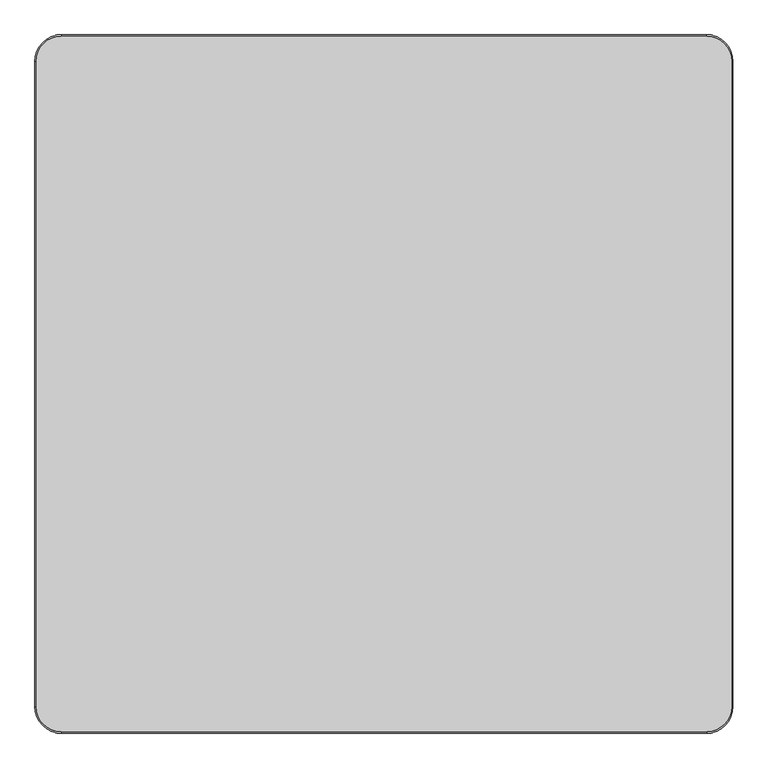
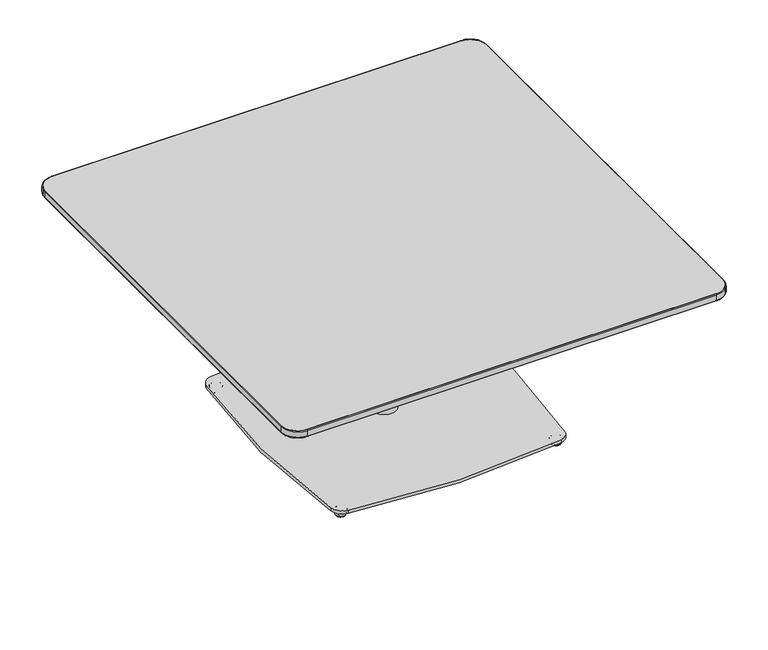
"""IFC4 building model written with IfcOpenShell, lengths in millimetres: furniture geometry, Coalesse_AM_Table_Occasional_Montara650Table_Square : 42D x 42W."""

from ifc_helpers import new_model, si_unit, point, frame, frame_2d, origin, place, context, project, spatial, polyline, circle_curve, ellipse_curve, trimmed, segment, composite_curve, outline, extrude, source, transform, mapped, element, save
from ifc_brep_helpers import plane_surface, cylinder_surface, revolved_surface, spline_surface, advanced_brep


def furniture_d6c9ae74(model_context):
    return source(origin(), model_context, "Body", "SolidModel", [
        advanced_brep(
        [(252.2843813, 244.9990703, 0.0), (266.9696661, 259.6843552, 0.0), (259.6270237, 252.3417127, 0.0), (251.7378791, 244.4525682, 0.5718943), (267.5161683, 260.2308573, 0.5718943), (249.43878, 242.1534691, 11.2068005), (269.8152674, 262.5299564, 11.2068005), (249.8538008, 242.5684899, 11.9999882), (269.4002466, 262.1149356, 11.9999882), (259.6270237, 252.3417127, 11.9999882)],
        [
            (0, 1, circle_curve(frame((259.6270237, 252.3417127, 0.0), z_axis=(0.0, 0.0, -1.0), x_axis=(0.7071067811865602, 0.7071067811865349, 0.0)), 10.3840645)),
            (1, 2),
            (2, 0),
            (1, 0, circle_curve(frame((259.6270237, 252.3417127, 0.0), z_axis=(0.0, 0.0, -1.0), x_axis=(0.7071067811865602, 0.7071067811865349, 0.0)), 10.3840645)),
            (3, 4, circle_curve(frame((259.6270237, 252.3417127, 0.5718943), z_axis=(0.0, 0.0, -1.0), x_axis=(0.7071067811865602, 0.7071067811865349, 0.0)), 11.1569353)),
            (4, 1, circle_curve(frame((266.9696661, 259.6843552, 0.8081846), z_axis=(-0.7071067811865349, 0.7071067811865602, 0.0), x_axis=(0.7071067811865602, 0.7071067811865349, 0.0)), 0.8081846)),
            (0, 3, circle_curve(frame((252.2843813, 244.9990703, 0.8081846), z_axis=(-0.7071067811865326, 0.7071067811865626, 0.0), x_axis=(-0.7071067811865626, -0.7071067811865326, 0.0)), 0.8081846)),
            (4, 3, circle_curve(frame((259.6270237, 252.3417127, 0.5718943), z_axis=(0.0, 0.0, -1.0), x_axis=(0.7071067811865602, 0.7071067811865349, 0.0)), 11.1569353)),
            (5, 6, circle_curve(frame((259.6270237, 252.3417127, 11.2068005), z_axis=(0.0, 0.0, -1.0), x_axis=(0.7071067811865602, 0.7071067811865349, 0.0)), 14.4083524)),
            (6, 4),
            (3, 5),
            (6, 5, circle_curve(frame((259.6270237, 252.3417127, 11.2068005), z_axis=(0.0, 0.0, -1.0), x_axis=(0.7071067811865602, 0.7071067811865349, 0.0)), 14.4083524)),
            (7, 8, circle_curve(frame((259.6270237, 252.3417127, 11.9999882), z_axis=(0.0, 0.0, -1.0), x_axis=(0.7071067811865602, 0.7071067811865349, 0.0)), 13.8214243)),
            (8, 6, circle_curve(frame((269.4002466, 262.1149356, 11.3862424), z_axis=(-0.7071067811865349, 0.7071067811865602, 0.0), x_axis=(0.7071067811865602, 0.7071067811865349, 0.0)), 0.6137458)),
            (5, 7, circle_curve(frame((249.8538008, 242.5684899, 11.3862424), z_axis=(-0.7071067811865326, 0.7071067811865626, 0.0), x_axis=(-0.7071067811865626, -0.7071067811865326, 0.0)), 0.6137458)),
            (8, 7, circle_curve(frame((259.6270237, 252.3417127, 11.9999882), z_axis=(0.0, 0.0, -1.0), x_axis=(0.7071067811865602, 0.7071067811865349, 0.0)), 13.8214243)),
            (9, 8),
            (7, 9),
        ],
        [
            plane_surface(frame((259.6270237, 252.3417127, 0.0), z_axis=(0.0, 0.0, -1.0000000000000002), x_axis=(0.7071067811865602, 0.7071067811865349, 0.0))),
            revolved_surface(trimmed(ellipse_curve(frame((266.9696661, 259.6843552, 0.8081846), z_axis=(0.7071067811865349, -0.7071067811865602, 0.0), x_axis=(0.7071067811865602, 0.7071067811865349, 0.0)), 0.8081846, 0.8081846), [point((266.9696661, 259.6843552, 0.0))], [point((267.5161683, 260.2308573, 0.5718943))], True, "CARTESIAN"), (259.6270237, 252.3417127, 12.2086845), (0.0, 0.0, 1.0)),
            revolved_surface(polyline([(267.5161683, 260.2308573, 0.5718943), (269.8152674, 262.5299564, 11.2068005)]), (259.6270237, 252.3417127, 12.2086845), (0.0, 0.0, 1.0)),
            revolved_surface(trimmed(ellipse_curve(frame((269.4002466, 262.1149356, 11.3862424), z_axis=(0.7071067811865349, -0.7071067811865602, 0.0), x_axis=(0.7071067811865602, 0.7071067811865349, 0.0)), 0.6137458, 0.6137458), [point((269.8152674, 262.5299564, 11.2068005))], [point((269.4002466, 262.1149356, 11.9999882))], True, "CARTESIAN"), (259.6270237, 252.3417127, 12.2086845), (0.0, 0.0, 1.0)),
            plane_surface(frame((259.6270237, 252.3417127, 11.9999882), z_axis=(0.0, 0.0, 1.0000000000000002), x_axis=(0.7071067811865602, 0.7071067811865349, 0.0))),
        ],
        [
            (0, [[1, 2, 3]]),
            (0, [[4, -3, -2]]),
            (1, [[5, 6, -1, 7]]),
            (1, [[8, -7, -4, -6]]),
            (2, [[9, 10, -5, 11]]),
            (2, [[12, -11, -8, -10]]),
            (3, [[13, 14, -9, 15]]),
            (3, [[16, -15, -12, -14]]),
            (4, [[17, -13, 18]]),
            (4, [[-18, -16, -17]]),
        ],
    ),
        advanced_brep(
        [(259.6270237, -268.2167127, 0.0), (266.9696661, -275.5593552, 0.0), (252.2843813, -260.8740703, 0.0), (267.5161683, -276.1058573, 0.5718943), (251.7378791, -260.3275682, 0.5718943), (269.8152674, -278.4049564, 11.2068005), (249.43878, -258.0284691, 11.2068005), (269.4002466, -277.9899356, 11.9999882), (249.8538008, -258.4434899, 11.9999882), (259.6270237, -268.2167127, 11.9999882)],
        [
            (0, 1),
            (1, 2, circle_curve(frame((259.6270237, -268.2167127, 0.0), z_axis=(0.0, 0.0, -1.0), x_axis=(0.7071067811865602, -0.7071067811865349, 0.0)), 10.3840645)),
            (2, 0),
            (2, 1, circle_curve(frame((259.6270237, -268.2167127, 0.0), z_axis=(0.0, 0.0, -1.0), x_axis=(0.7071067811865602, -0.7071067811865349, 0.0)), 10.3840645)),
            (1, 3, circle_curve(frame((266.9696661, -275.5593552, 0.8081846), z_axis=(-0.7071067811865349, -0.7071067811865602, 0.0), x_axis=(0.7071067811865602, -0.7071067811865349, 0.0)), 0.8081846)),
            (3, 4, circle_curve(frame((259.6270237, -268.2167127, 0.5718943), z_axis=(0.0, 0.0, -1.0), x_axis=(0.7071067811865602, -0.7071067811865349, 0.0)), 11.1569353)),
            (4, 2, circle_curve(frame((252.2843813, -260.8740703, 0.8081846), z_axis=(-0.7071067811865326, -0.7071067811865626, 0.0), x_axis=(-0.7071067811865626, 0.7071067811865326, 0.0)), 0.8081846)),
            (4, 3, circle_curve(frame((259.6270237, -268.2167127, 0.5718943), z_axis=(0.0, 0.0, -1.0), x_axis=(0.7071067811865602, -0.7071067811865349, 0.0)), 11.1569353)),
            (3, 5),
            (5, 6, circle_curve(frame((259.6270237, -268.2167127, 11.2068005), z_axis=(0.0, 0.0, -1.0), x_axis=(0.7071067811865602, -0.7071067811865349, 0.0)), 14.4083524)),
            (6, 4),
            (6, 5, circle_curve(frame((259.6270237, -268.2167127, 11.2068005), z_axis=(0.0, 0.0, -1.0), x_axis=(0.7071067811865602, -0.7071067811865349, 0.0)), 14.4083524)),
            (5, 7, circle_curve(frame((269.4002466, -277.9899356, 11.3862424), z_axis=(-0.7071067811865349, -0.7071067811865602, 0.0), x_axis=(0.7071067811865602, -0.7071067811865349, 0.0)), 0.6137458)),
            (7, 8, circle_curve(frame((259.6270237, -268.2167127, 11.9999882), z_axis=(0.0, 0.0, -1.0), x_axis=(0.7071067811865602, -0.7071067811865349, 0.0)), 13.8214243)),
            (8, 6, circle_curve(frame((249.8538008, -258.4434899, 11.3862424), z_axis=(-0.7071067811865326, -0.7071067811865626, 0.0), x_axis=(-0.7071067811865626, 0.7071067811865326, 0.0)), 0.6137458)),
            (8, 7, circle_curve(frame((259.6270237, -268.2167127, 11.9999882), z_axis=(0.0, 0.0, -1.0), x_axis=(0.7071067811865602, -0.7071067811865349, 0.0)), 13.8214243)),
            (7, 9),
            (9, 8),
        ],
        [
            plane_surface(frame((259.6270237, -268.2167127, 0.0), z_axis=(0.0, 0.0, -1.0000000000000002), x_axis=(0.7071067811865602, -0.7071067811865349, 0.0))),
            revolved_surface(trimmed(ellipse_curve(frame((266.9696661, -275.5593552, 0.8081846), z_axis=(0.7071067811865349, 0.7071067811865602, 0.0), x_axis=(0.7071067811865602, -0.7071067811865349, 0.0)), 0.8081846, 0.8081846), [point((267.5161683, -276.1058573, 0.5718943))], [point((266.9696661, -275.5593552, 0.0))], True, "CARTESIAN"), (259.6270237, -268.2167127, 12.2086845), (0.0, 0.0, -1.0)),
            revolved_surface(polyline([(269.8152674, -278.4049564, 11.2068005), (267.5161683, -276.1058573, 0.5718943)]), (259.6270237, -268.2167127, 12.2086845), (0.0, 0.0, -1.0)),
            revolved_surface(trimmed(ellipse_curve(frame((269.4002466, -277.9899356, 11.3862424), z_axis=(0.7071067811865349, 0.7071067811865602, 0.0), x_axis=(0.7071067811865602, -0.7071067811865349, 0.0)), 0.6137458, 0.6137458), [point((269.4002466, -277.9899356, 11.9999882))], [point((269.8152674, -278.4049564, 11.2068005))], True, "CARTESIAN"), (259.6270237, -268.2167127, 12.2086845), (0.0, 0.0, -1.0)),
            plane_surface(frame((259.6270237, -268.2167127, 11.9999882), z_axis=(0.0, 0.0, 1.0000000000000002), x_axis=(0.7071067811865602, -0.7071067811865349, 0.0))),
        ],
        [
            (0, [[1, 2, 3]]),
            (0, [[-3, 4, -1]]),
            (1, [[-2, 5, 6, 7]]),
            (1, [[-4, -7, 8, -5]]),
            (2, [[-6, 9, 10, 11]]),
            (2, [[-8, -11, 12, -9]]),
            (3, [[-10, 13, 14, 15]]),
            (3, [[-12, -15, 16, -13]]),
            (4, [[-14, 17, 18]]),
            (4, [[-16, -18, -17]]),
        ],
    ),
        extrude(outline(composite_curve([segment(trimmed(circle_curve(frame_2d((252.4620101, 244.7741595)), 31.75), [point((257.2212429, 276.1654354))], [point((283.8374336, 249.6368029))], False, "CARTESIAN"), True, "CONTINUOUS"), segment(trimmed(circle_curve(frame_2d((-1338.8141764, -1.8458925)), 1642.0236885), [point((283.8374336, 249.6368029))], [point((281.5966066, -267.3843791))], False, "CARTESIAN"), True, "CONTINUOUS"), segment(trimmed(circle_curve(frame_2d((256.5309305, -263.2768394)), 25.4), [point((281.5966066, -267.3843791))], [point((260.3854879, -288.3826631))], False, "CARTESIAN"), True, "CONTINUOUS"), segment(trimmed(circle_curve(frame_2d((1.8210899, 1395.720493)), 1703.8365498), [point((260.3854879, -288.3826631))], [point((-253.486505, -288.8794656))], False, "CARTESIAN"), True, "CONTINUOUS"), segment(trimmed(circle_curve(frame_2d((-248.7289969, -257.4879282)), 31.75), [point((-253.486505, -288.8794656))], [point((-280.1193859, -262.2530073))], False, "CARTESIAN"), True, "CONTINUOUS"), segment(trimmed(circle_curve(frame_2d((1447.4963883, 5.89e-05)), 1747.4074894), [point((-280.1193859, -262.2530073))], [point((-281.3896101, 253.7442979))], False, "CARTESIAN"), True, "CONTINUOUS"), segment(trimmed(circle_curve(frame_2d((-256.2588351, 250.0559175)), 25.4), [point((-281.3896101, 253.7442979))], [point((-260.1643924, 275.1538581))], False, "CARTESIAN"), True, "CONTINUOUS"), segment(trimmed(circle_curve(frame_2d((1.8210899, -1408.420493)), 1703.8365498), [point((-260.1643924, 275.1538581))], [point((257.2212429, 276.1654354))], False, "CARTESIAN"), True, "CONTINUOUS")], self_intersect=False)), frame((0.0, 0.0, 11.9999882), z_axis=(0.0, 0.0, 1.0), x_axis=(1.0, 0.0, 0.0)), (0.0, 0.0, 1.0), 8.0000083),
        advanced_brep(
        [(-259.6270237, 252.3417127, 0.0), (-266.9696661, 259.6843552, 0.0), (-252.2843813, 244.9990703, 0.0), (-267.5161683, 260.2308573, 0.5718943), (-251.7378791, 244.4525682, 0.5718943), (-269.8152674, 262.5299564, 11.2068005), (-249.43878, 242.1534691, 11.2068005), (-269.4002466, 262.1149356, 11.9999882), (-249.8538008, 242.5684899, 11.9999882), (-259.6270237, 252.3417127, 11.9999882)],
        [
            (0, 1),
            (1, 2, circle_curve(frame((-259.6270237, 252.3417127, 0.0), z_axis=(0.0, 0.0, -1.0), x_axis=(-0.7071067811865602, 0.7071067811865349, 0.0)), 10.3840645)),
            (2, 0),
            (2, 1, circle_curve(frame((-259.6270237, 252.3417127, 0.0), z_axis=(0.0, 0.0, -1.0), x_axis=(-0.7071067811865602, 0.7071067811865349, 0.0)), 10.3840645)),
            (1, 3, circle_curve(frame((-266.9696661, 259.6843552, 0.8081846), z_axis=(0.7071067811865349, 0.7071067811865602, 0.0), x_axis=(-0.7071067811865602, 0.7071067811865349, 0.0)), 0.8081846)),
            (3, 4, circle_curve(frame((-259.6270237, 252.3417127, 0.5718943), z_axis=(0.0, 0.0, -1.0), x_axis=(-0.7071067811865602, 0.7071067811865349, 0.0)), 11.1569353)),
            (4, 2, circle_curve(frame((-252.2843813, 244.9990703, 0.8081846), z_axis=(0.7071067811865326, 0.7071067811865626, 0.0), x_axis=(0.7071067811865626, -0.7071067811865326, 0.0)), 0.8081846)),
            (4, 3, circle_curve(frame((-259.6270237, 252.3417127, 0.5718943), z_axis=(0.0, 0.0, -1.0), x_axis=(-0.7071067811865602, 0.7071067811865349, 0.0)), 11.1569353)),
            (3, 5),
            (5, 6, circle_curve(frame((-259.6270237, 252.3417127, 11.2068005), z_axis=(0.0, 0.0, -1.0), x_axis=(-0.7071067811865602, 0.7071067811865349, 0.0)), 14.4083524)),
            (6, 4),
            (6, 5, circle_curve(frame((-259.6270237, 252.3417127, 11.2068005), z_axis=(0.0, 0.0, -1.0), x_axis=(-0.7071067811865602, 0.7071067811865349, 0.0)), 14.4083524)),
            (5, 7, circle_curve(frame((-269.4002466, 262.1149356, 11.3862424), z_axis=(0.7071067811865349, 0.7071067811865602, 0.0), x_axis=(-0.7071067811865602, 0.7071067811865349, 0.0)), 0.6137458)),
            (7, 8, circle_curve(frame((-259.6270237, 252.3417127, 11.9999882), z_axis=(0.0, 0.0, -1.0), x_axis=(-0.7071067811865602, 0.7071067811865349, 0.0)), 13.8214243)),
            (8, 6, circle_curve(frame((-249.8538008, 242.5684899, 11.3862424), z_axis=(0.7071067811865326, 0.7071067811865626, 0.0), x_axis=(0.7071067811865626, -0.7071067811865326, 0.0)), 0.6137458)),
            (8, 7, circle_curve(frame((-259.6270237, 252.3417127, 11.9999882), z_axis=(0.0, 0.0, -1.0), x_axis=(-0.7071067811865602, 0.7071067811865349, 0.0)), 13.8214243)),
            (7, 9),
            (9, 8),
        ],
        [
            plane_surface(frame((-259.6270237, 252.3417127, 0.0), z_axis=(0.0, 0.0, -1.0000000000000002), x_axis=(-0.7071067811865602, 0.7071067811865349, 0.0))),
            revolved_surface(trimmed(ellipse_curve(frame((-266.9696661, 259.6843552, 0.8081846), z_axis=(-0.7071067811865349, -0.7071067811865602, 0.0), x_axis=(-0.7071067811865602, 0.7071067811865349, 0.0)), 0.8081846, 0.8081846), [point((-267.5161683, 260.2308573, 0.5718943))], [point((-266.9696661, 259.6843552, 0.0))], True, "CARTESIAN"), (-259.6270237, 252.3417127, 12.2086845), (0.0, 0.0, -1.0)),
            revolved_surface(polyline([(-269.8152674, 262.5299564, 11.2068005), (-267.5161683, 260.2308573, 0.5718943)]), (-259.6270237, 252.3417127, 12.2086845), (0.0, 0.0, -1.0)),
            revolved_surface(trimmed(ellipse_curve(frame((-269.4002466, 262.1149356, 11.3862424), z_axis=(-0.7071067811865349, -0.7071067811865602, 0.0), x_axis=(-0.7071067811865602, 0.7071067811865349, 0.0)), 0.6137458, 0.6137458), [point((-269.4002466, 262.1149356, 11.9999882))], [point((-269.8152674, 262.5299564, 11.2068005))], True, "CARTESIAN"), (-259.6270237, 252.3417127, 12.2086845), (0.0, 0.0, -1.0)),
            plane_surface(frame((-259.6270237, 252.3417127, 11.9999882), z_axis=(0.0, 0.0, 1.0000000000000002), x_axis=(-0.7071067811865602, 0.7071067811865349, 0.0))),
        ],
        [
            (0, [[1, 2, 3]]),
            (0, [[-3, 4, -1]]),
            (1, [[-2, 5, 6, 7]]),
            (1, [[-4, -7, 8, -5]]),
            (2, [[-6, 9, 10, 11]]),
            (2, [[-8, -11, 12, -9]]),
            (3, [[-10, 13, 14, 15]]),
            (3, [[-12, -15, 16, -13]]),
            (4, [[-14, 17, 18]]),
            (4, [[-16, -18, -17]]),
        ],
    ),
        advanced_brep(
        [(-252.2843813, -260.8740703, 0.0), (-266.9696661, -275.5593552, 0.0), (-259.6270237, -268.2167127, 0.0), (-251.7378791, -260.3275682, 0.5718943), (-267.5161683, -276.1058573, 0.5718943), (-249.43878, -258.0284691, 11.2068005), (-269.8152674, -278.4049564, 11.2068005), (-249.8538008, -258.4434899, 11.9999882), (-269.4002466, -277.9899356, 11.9999882), (-259.6270237, -268.2167127, 11.9999882)],
        [
            (0, 1, circle_curve(frame((-259.6270237, -268.2167127, 0.0), z_axis=(0.0, 0.0, -1.0), x_axis=(-0.7071067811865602, -0.7071067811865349, 0.0)), 10.3840645)),
            (1, 2),
            (2, 0),
            (1, 0, circle_curve(frame((-259.6270237, -268.2167127, 0.0), z_axis=(0.0, 0.0, -1.0), x_axis=(-0.7071067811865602, -0.7071067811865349, 0.0)), 10.3840645)),
            (3, 4, circle_curve(frame((-259.6270237, -268.2167127, 0.5718943), z_axis=(0.0, 0.0, -1.0), x_axis=(-0.7071067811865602, -0.7071067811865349, 0.0)), 11.1569353)),
            (4, 1, circle_curve(frame((-266.9696661, -275.5593552, 0.8081846), z_axis=(0.7071067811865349, -0.7071067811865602, 0.0), x_axis=(-0.7071067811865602, -0.7071067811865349, 0.0)), 0.8081846)),
            (0, 3, circle_curve(frame((-252.2843813, -260.8740703, 0.8081846), z_axis=(0.7071067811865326, -0.7071067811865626, 0.0), x_axis=(0.7071067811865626, 0.7071067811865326, 0.0)), 0.8081846)),
            (4, 3, circle_curve(frame((-259.6270237, -268.2167127, 0.5718943), z_axis=(0.0, 0.0, -1.0), x_axis=(-0.7071067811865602, -0.7071067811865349, 0.0)), 11.1569353)),
            (5, 6, circle_curve(frame((-259.6270237, -268.2167127, 11.2068005), z_axis=(0.0, 0.0, -1.0), x_axis=(-0.7071067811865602, -0.7071067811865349, 0.0)), 14.4083524)),
            (6, 4),
            (3, 5),
            (6, 5, circle_curve(frame((-259.6270237, -268.2167127, 11.2068005), z_axis=(0.0, 0.0, -1.0), x_axis=(-0.7071067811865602, -0.7071067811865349, 0.0)), 14.4083524)),
            (7, 8, circle_curve(frame((-259.6270237, -268.2167127, 11.9999882), z_axis=(0.0, 0.0, -1.0), x_axis=(-0.7071067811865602, -0.7071067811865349, 0.0)), 13.8214243)),
            (8, 6, circle_curve(frame((-269.4002466, -277.9899356, 11.3862424), z_axis=(0.7071067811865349, -0.7071067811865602, 0.0), x_axis=(-0.7071067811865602, -0.7071067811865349, 0.0)), 0.6137458)),
            (5, 7, circle_curve(frame((-249.8538008, -258.4434899, 11.3862424), z_axis=(0.7071067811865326, -0.7071067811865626, 0.0), x_axis=(0.7071067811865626, 0.7071067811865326, 0.0)), 0.6137458)),
            (8, 7, circle_curve(frame((-259.6270237, -268.2167127, 11.9999882), z_axis=(0.0, 0.0, -1.0), x_axis=(-0.7071067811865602, -0.7071067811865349, 0.0)), 13.8214243)),
            (9, 8),
            (7, 9),
        ],
        [
            plane_surface(frame((-259.6270237, -268.2167127, 0.0), z_axis=(0.0, 0.0, -1.0000000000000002), x_axis=(-0.7071067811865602, -0.7071067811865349, 0.0))),
            revolved_surface(trimmed(ellipse_curve(frame((-266.9696661, -275.5593552, 0.8081846), z_axis=(-0.7071067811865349, 0.7071067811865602, 0.0), x_axis=(-0.7071067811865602, -0.7071067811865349, 0.0)), 0.8081846, 0.8081846), [point((-266.9696661, -275.5593552, 0.0))], [point((-267.5161683, -276.1058573, 0.5718943))], True, "CARTESIAN"), (-259.6270237, -268.2167127, 12.2086845), (0.0, 0.0, 1.0)),
            revolved_surface(polyline([(-267.5161683, -276.1058573, 0.5718943), (-269.8152674, -278.4049564, 11.2068005)]), (-259.6270237, -268.2167127, 12.2086845), (0.0, 0.0, 1.0)),
            revolved_surface(trimmed(ellipse_curve(frame((-269.4002466, -277.9899356, 11.3862424), z_axis=(-0.7071067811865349, 0.7071067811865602, 0.0), x_axis=(-0.7071067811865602, -0.7071067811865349, 0.0)), 0.6137458, 0.6137458), [point((-269.8152674, -278.4049564, 11.2068005))], [point((-269.4002466, -277.9899356, 11.9999882))], True, "CARTESIAN"), (-259.6270237, -268.2167127, 12.2086845), (0.0, 0.0, 1.0)),
            plane_surface(frame((-259.6270237, -268.2167127, 11.9999882), z_axis=(0.0, 0.0, 1.0000000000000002), x_axis=(-0.7071067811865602, -0.7071067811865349, 0.0))),
        ],
        [
            (0, [[1, 2, 3]]),
            (0, [[4, -3, -2]]),
            (1, [[5, 6, -1, 7]]),
            (1, [[8, -7, -4, -6]]),
            (2, [[9, 10, -5, 11]]),
            (2, [[12, -11, -8, -10]]),
            (3, [[13, 14, -9, 15]]),
            (3, [[16, -15, -12, -14]]),
            (4, [[17, -13, 18]]),
            (4, [[-18, -16, -17]]),
        ],
    ),
        advanced_brep(
        [(-259.4526224, 252.1653521, 0.0), (-266.7952648, 259.5079945, 0.0), (-252.1099799, 244.8227097, 0.0), (-267.3417669, 260.0544967, 0.5718943), (-251.5634778, 244.2762075, 0.5718943), (-269.640866, 262.3535958, 11.2068005), (-249.2643787, 241.9771084, 11.2068005), (-269.2258452, 261.938575, 11.9999882), (-249.6793995, 242.3921292, 11.9999882), (-259.4526224, 252.1653521, 11.9999882)],
        [
            (0, 1),
            (1, 2, circle_curve(frame((-259.4526224, 252.1653521, 0.0), z_axis=(0.0, 0.0, -1.0), x_axis=(-0.7071067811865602, 0.7071067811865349, 0.0)), 10.3840645)),
            (2, 0),
            (2, 1, circle_curve(frame((-259.4526224, 252.1653521, 0.0), z_axis=(0.0, 0.0, -1.0), x_axis=(-0.7071067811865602, 0.7071067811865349, 0.0)), 10.3840645)),
            (1, 3, circle_curve(frame((-266.7952648, 259.5079945, 0.8081846), z_axis=(0.7071067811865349, 0.7071067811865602, 0.0), x_axis=(-0.7071067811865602, 0.7071067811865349, 0.0)), 0.8081846)),
            (3, 4, circle_curve(frame((-259.4526224, 252.1653521, 0.5718943), z_axis=(0.0, 0.0, -1.0), x_axis=(-0.7071067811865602, 0.7071067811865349, 0.0)), 11.1569353)),
            (4, 2, circle_curve(frame((-252.1099799, 244.8227097, 0.8081846), z_axis=(0.7071067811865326, 0.7071067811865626, 0.0), x_axis=(0.7071067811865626, -0.7071067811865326, 0.0)), 0.8081846)),
            (4, 3, circle_curve(frame((-259.4526224, 252.1653521, 0.5718943), z_axis=(0.0, 0.0, -1.0), x_axis=(-0.7071067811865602, 0.7071067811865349, 0.0)), 11.1569353)),
            (3, 5),
            (5, 6, circle_curve(frame((-259.4526224, 252.1653521, 11.2068005), z_axis=(0.0, 0.0, -1.0), x_axis=(-0.7071067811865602, 0.7071067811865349, 0.0)), 14.4083524)),
            (6, 4),
            (6, 5, circle_curve(frame((-259.4526224, 252.1653521, 11.2068005), z_axis=(0.0, 0.0, -1.0), x_axis=(-0.7071067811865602, 0.7071067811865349, 0.0)), 14.4083524)),
            (5, 7, circle_curve(frame((-269.2258452, 261.938575, 11.3862424), z_axis=(0.7071067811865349, 0.7071067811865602, 0.0), x_axis=(-0.7071067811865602, 0.7071067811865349, 0.0)), 0.6137458)),
            (7, 8, circle_curve(frame((-259.4526224, 252.1653521, 11.9999882), z_axis=(0.0, 0.0, -1.0), x_axis=(-0.7071067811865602, 0.7071067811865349, 0.0)), 13.8214243)),
            (8, 6, circle_curve(frame((-249.6793995, 242.3921292, 11.3862424), z_axis=(0.7071067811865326, 0.7071067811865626, 0.0), x_axis=(0.7071067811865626, -0.7071067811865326, 0.0)), 0.6137458)),
            (8, 7, circle_curve(frame((-259.4526224, 252.1653521, 11.9999882), z_axis=(0.0, 0.0, -1.0), x_axis=(-0.7071067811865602, 0.7071067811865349, 0.0)), 13.8214243)),
            (7, 9),
            (9, 8),
        ],
        [
            plane_surface(frame((-259.4526224, 252.1653521, 0.0), z_axis=(0.0, 0.0, -1.0000000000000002), x_axis=(-0.7071067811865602, 0.7071067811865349, 0.0))),
            revolved_surface(trimmed(ellipse_curve(frame((-266.7952648, 259.5079945, 0.8081846), z_axis=(-0.7071067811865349, -0.7071067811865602, 0.0), x_axis=(-0.7071067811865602, 0.7071067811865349, 0.0)), 0.8081846, 0.8081846), [point((-267.3417669, 260.0544967, 0.5718943))], [point((-266.7952648, 259.5079945, 0.0))], True, "CARTESIAN"), (-259.4526224, 252.1653521, 12.2086845), (0.0, 0.0, -1.0)),
            revolved_surface(polyline([(-269.640866, 262.3535958, 11.2068005), (-267.3417669, 260.0544967, 0.5718943)]), (-259.4526224, 252.1653521, 12.2086845), (0.0, 0.0, -1.0)),
            revolved_surface(trimmed(ellipse_curve(frame((-269.2258452, 261.938575, 11.3862424), z_axis=(-0.7071067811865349, -0.7071067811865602, 0.0), x_axis=(-0.7071067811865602, 0.7071067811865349, 0.0)), 0.6137458, 0.6137458), [point((-269.2258452, 261.938575, 11.9999882))], [point((-269.640866, 262.3535958, 11.2068005))], True, "CARTESIAN"), (-259.4526224, 252.1653521, 12.2086845), (0.0, 0.0, -1.0)),
            plane_surface(frame((-259.4526224, 252.1653521, 11.9999882), z_axis=(0.0, 0.0, 1.0000000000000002), x_axis=(-0.7071067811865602, 0.7071067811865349, 0.0))),
        ],
        [
            (0, [[1, 2, 3]]),
            (0, [[-3, 4, -1]]),
            (1, [[-2, 5, 6, 7]]),
            (1, [[-4, -7, 8, -5]]),
            (2, [[-6, 9, 10, 11]]),
            (2, [[-8, -11, 12, -9]]),
            (3, [[-10, 13, 14, 15]]),
            (3, [[-12, -15, 16, -13]]),
            (4, [[-14, 17, 18]]),
            (4, [[-16, -18, -17]]),
        ],
    ),
        advanced_brep(
        [(468.4626362, 468.4635082, 427.230027), (468.4626362, -468.4635082, 427.230027), (-468.4626362, -468.4635082, 427.230027), (-468.4626362, 468.4635082, 427.230027), (493.188625, 531.368, 439.495891), (-493.188625, 531.368, 439.495891), (-531.288625, 493.268, 439.495891), (-531.288625, -493.268, 439.495891), (-493.188625, -531.368, 439.495891), (493.188625, -531.368, 439.495891), (531.288625, -493.268, 439.495891), (531.288625, 493.268, 439.495891)],
        [
            (0, 1),
            (1, 2),
            (2, 3),
            (3, 0),
            (4, 5),
            (5, 6, circle_curve(frame((-493.188625, 493.268, 439.495891), z_axis=(0.0, 0.0, 1.0), x_axis=(1.0, 0.0, 0.0)), 38.1)),
            (6, 7),
            (7, 8, circle_curve(frame((-493.188625, -493.268, 439.495891), z_axis=(0.0, 0.0, 1.0), x_axis=(1.0, 0.0, 0.0)), 38.1)),
            (8, 9),
            (9, 10, circle_curve(frame((493.188625, -493.268, 439.495891), z_axis=(0.0, 0.0, 1.0), x_axis=(1.0, 0.0, 0.0)), 38.1)),
            (10, 11),
            (11, 4, circle_curve(frame((493.188625, 493.268, 439.495891), z_axis=(0.0, 0.0, 1.0), x_axis=(1.0, 0.0, 0.0)), 38.1)),
            (11, 0),
            (0, 4),
            (10, 1),
            (9, 1),
            (8, 2),
            (7, 2),
            (6, 3),
            (5, 3),
        ],
        [
            plane_surface(frame((0.0, 0.0, 427.230027), z_axis=(0.0, 0.0, -1.0), x_axis=(-1.0, 0.0, 0.0))),
            plane_surface(frame((0.0, 0.0, 439.495891), z_axis=(0.0, 0.0, 1.0), x_axis=(-1.0, 0.0, 0.0))),
            spline_surface(2, 1, [[(493.188625, 531.368, 439.495891), (468.4626362, 468.4635082, 427.230027)], [(531.2886250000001, 531.3680000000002, 439.495891), (468.4626362, 468.4635082, 427.230027)], [(531.288625, 493.268, 439.495891), (468.4626362, 468.4635082, 427.230027)]], [3, 3], [2, 2], [0.0, 1.0], [0.0, 1.0], weights=[[1.0, 1.0], [0.707106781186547, 0.707106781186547], [1.0, 1.0]]),
            plane_surface(frame((531.288625, 0.0, 439.495891), z_axis=(0.19161772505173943, 0.0, -0.9814696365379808), x_axis=(0.0, -1.0, 0.0))),
            spline_surface(2, 1, [[(531.288625, -493.268, 439.495891), (468.4626362, -468.4635082, 427.230027)], [(531.2886249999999, -531.3679999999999, 439.495891), (468.4626362, -468.4635082, 427.230027)], [(493.188625, -531.368, 439.495891), (468.4626362, -468.4635082, 427.230027)]], [3, 3], [2, 2], [0.0, 1.0], [0.0, 1.0], weights=[[1.0, 1.0], [0.7071067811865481, 0.7071067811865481], [1.0, 1.0]]),
            plane_surface(frame((0.0, -531.368, 439.495891), z_axis=(0.0, -0.19138735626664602, -0.9815145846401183), x_axis=(-1.0, 0.0, 0.0))),
            spline_surface(2, 1, [[(-493.188625, -531.368, 439.495891), (-468.4626362, -468.4635082, 427.230027)], [(-531.2886250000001, -531.3680000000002, 439.495891), (-468.4626362, -468.4635082, 427.230027)], [(-531.288625, -493.268, 439.495891), (-468.4626362, -468.4635082, 427.230027)]], [3, 3], [2, 2], [0.0, 1.0], [0.0, 1.0], weights=[[1.0, 1.0], [0.707106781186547, 0.707106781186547], [1.0, 1.0]]),
            plane_surface(frame((-531.288625, 0.0, 439.495891), z_axis=(-0.19161772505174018, 0.0, -0.9814696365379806), x_axis=(0.0, 1.0, 0.0))),
            spline_surface(2, 1, [[(-531.288625, 493.268, 439.495891), (-468.4626362, 468.4635082, 427.230027)], [(-531.2886249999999, 531.3679999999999, 439.495891), (-468.4626362, 468.4635082, 427.230027)], [(-493.188625, 531.368, 439.495891), (-468.4626362, 468.4635082, 427.230027)]], [3, 3], [2, 2], [0.0, 1.0], [0.0, 1.0], weights=[[1.0, 1.0], [0.7071067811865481, 0.7071067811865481], [1.0, 1.0]]),
            plane_surface(frame((0.0, 531.368, 439.495891), z_axis=(0.0, 0.19138735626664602, -0.9815145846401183), x_axis=(1.0, 0.0, 0.0))),
        ],
        [
            (0, [[1, 2, 3, 4]]),
            (1, [[5, 6, 7, 8, 9, 10, 11, 12]]),
            (2, [[-12, 13, 14]]),
            (3, [[-11, 15, -1, -13]]),
            (4, [[-10, 16, -15]]),
            (5, [[-9, 17, -2, -16]]),
            (6, [[-8, 18, -17]]),
            (7, [[-7, 19, -3, -18]]),
            (8, [[-6, 20, -19]]),
            (9, [[-5, -14, -4, -20]]),
        ],
    ),
        extrude(outline(composite_curve([segment(trimmed(circle_curve(frame_2d((493.188625, 493.268)), 38.1), [point((493.188625, 531.368))], [point((531.288625, 493.268))], False, "CARTESIAN"), True, "CONTINUOUS"), segment(polyline([(531.288625, 493.268), (531.288625, -493.268)]), True, "CONTINUOUS"), segment(trimmed(circle_curve(frame_2d((493.188625, -493.268)), 38.1), [point((531.288625, -493.268))], [point((493.188625, -531.368))], False, "CARTESIAN"), True, "CONTINUOUS"), segment(polyline([(493.188625, -531.368), (-493.188625, -531.368)]), True, "CONTINUOUS"), segment(trimmed(circle_curve(frame_2d((-493.188625, -493.268)), 38.1), [point((-493.188625, -531.368))], [point((-531.288625, -493.268))], False, "CARTESIAN"), True, "CONTINUOUS"), segment(polyline([(-531.288625, -493.268), (-531.288625, 493.268)]), True, "CONTINUOUS"), segment(trimmed(circle_curve(frame_2d((-493.188625, 493.268)), 38.1), [point((-531.288625, 493.268))], [point((-493.188625, 531.368))], False, "CARTESIAN"), True, "CONTINUOUS"), segment(polyline([(-493.188625, 531.368), (493.188625, 531.368)]), True, "CONTINUOUS")], self_intersect=False)), frame((0.0, 0.0, 439.495891), z_axis=(0.0, 0.0, 1.0), x_axis=(1.0, 0.0, 0.0)), (0.0, 0.0, 1.0), 17.704109),
        advanced_brep(
        [(-533.3644915, 493.268, 441.4278467), (-493.188625, 533.4438665, 441.4278467), (-493.188625, 531.368, 439.495891), (-531.288625, 493.268, 439.495891), (-533.3644915, 493.268, 455.1999283), (-493.188625, 533.4438665, 455.1999283), (-531.288625, 493.268, 457.2), (-493.188625, 531.368, 457.2), (-531.288625, -493.268, 439.495891), (-533.3644915, -493.268, 441.4278467), (-533.3644915, -493.268, 455.1999283), (-531.288625, -493.268, 457.2), (-493.188625, -533.4438665, 441.4278467), (-493.188625, -531.368, 439.495891), (-493.188625, -533.4438665, 455.1999283), (-493.188625, -531.368, 457.2), (493.188625, -531.368, 439.495891), (493.188625, -533.4438665, 441.4278467), (493.188625, -533.4438665, 455.1999283), (493.188625, -531.368, 457.2), (533.3644915, -493.268, 441.4278467), (531.288625, -493.268, 439.495891), (533.3644915, -493.268, 455.1999283), (531.288625, -493.268, 457.2), (531.288625, 493.268, 439.495891), (533.3644915, 493.268, 441.4278467), (533.3644915, 493.268, 455.1999283), (531.288625, 493.268, 457.2), (493.188625, 533.4438665, 441.4278467), (493.188625, 531.368, 439.495891), (493.188625, 533.4438665, 455.1999283), (493.188625, 531.368, 457.2)],
        [
            (0, 1, circle_curve(frame((-493.188625, 493.268, 441.4278467), z_axis=(0.0, 0.0, -1.0), x_axis=(0.0, 1.0, 0.0)), 40.1758665)),
            (1, 2, circle_curve(frame((-493.188625, 531.5069224, 441.4278467), z_axis=(-1.0, 0.0, 0.0), x_axis=(0.0, -1.0, 0.0)), 1.9369441)),
            (2, 3, circle_curve(frame((-493.188625, 493.268, 439.495891), z_axis=(0.0, 0.0, 1.0), x_axis=(0.0, 1.0, 0.0)), 38.1)),
            (3, 0, circle_curve(frame((-531.4275474, 493.268, 441.4278467), z_axis=(0.0, 1.0, 0.0), x_axis=(1.0, 0.0, 0.0)), 1.9369441)),
            (4, 5, circle_curve(frame((-493.188625, 493.268, 455.1999283), z_axis=(0.0, 0.0, -1.0), x_axis=(0.0, 1.0, 0.0)), 40.1758665)),
            (5, 1),
            (0, 4),
            (6, 7, circle_curve(frame((-493.188625, 493.268, 457.2), z_axis=(0.0, 0.0, -1.0), x_axis=(0.0, 1.0, 0.0)), 38.1)),
            (7, 5, circle_curve(frame((-493.188625, 531.4424111, 455.1999283), z_axis=(-1.0, 0.0, 0.0), x_axis=(0.0, -1.0, 0.0)), 2.0014554)),
            (4, 6, circle_curve(frame((-531.3630361, 493.268, 455.1999283), z_axis=(0.0, 1.0, 0.0), x_axis=(1.0, 0.0, 0.0)), 2.0014554)),
            (2, 7),
            (6, 3),
            (3, 8),
            (8, 9, circle_curve(frame((-531.4275474, -493.268, 441.4278467), z_axis=(0.0, 1.0, 0.0), x_axis=(1.0, 0.0, 0.0)), 1.9369441)),
            (9, 0),
            (9, 10),
            (10, 4),
            (10, 11, circle_curve(frame((-531.3630361, -493.268, 455.1999283), z_axis=(0.0, 1.0, 0.0), x_axis=(1.0, 0.0, 0.0)), 2.0014554)),
            (11, 6),
            (11, 8),
            (12, 9, circle_curve(frame((-493.188625, -493.268, 441.4278467), z_axis=(0.0, 0.0, -1.0), x_axis=(-1.0, 0.0, 0.0)), 40.1758665)),
            (8, 13, circle_curve(frame((-493.188625, -493.268, 439.495891), z_axis=(0.0, 0.0, 1.0), x_axis=(-1.0, 0.0, 0.0)), 38.1)),
            (13, 12, circle_curve(frame((-493.188625, -531.5069224, 441.4278467), z_axis=(-1.0, 0.0, 0.0), x_axis=(0.0, 1.0, 0.0)), 1.9369441)),
            (14, 10, circle_curve(frame((-493.188625, -493.268, 455.1999283), z_axis=(0.0, 0.0, -1.0), x_axis=(-1.0, 0.0, 0.0)), 40.1758665)),
            (12, 14),
            (15, 11, circle_curve(frame((-493.188625, -493.268, 457.2), z_axis=(0.0, 0.0, -1.0), x_axis=(-1.0, 0.0, 0.0)), 38.1)),
            (14, 15, circle_curve(frame((-493.188625, -531.4424111, 455.1999283), z_axis=(-1.0, 0.0, 0.0), x_axis=(0.0, 1.0, 0.0)), 2.0014554)),
            (15, 13),
            (13, 16),
            (16, 17, circle_curve(frame((493.188625, -531.5069224, 441.4278467), z_axis=(-1.0, 0.0, 0.0), x_axis=(0.0, 1.0, 0.0)), 1.9369441)),
            (17, 12),
            (17, 18),
            (18, 14),
            (18, 19, circle_curve(frame((493.188625, -531.4424111, 455.1999283), z_axis=(-1.0, 0.0, 0.0), x_axis=(0.0, 1.0, 0.0)), 2.0014554)),
            (19, 15),
            (19, 16),
            (20, 17, circle_curve(frame((493.188625, -493.268, 441.4278467), z_axis=(0.0, 0.0, -1.0), x_axis=(0.0, -1.0, 0.0)), 40.1758665)),
            (16, 21, circle_curve(frame((493.188625, -493.268, 439.495891), z_axis=(0.0, 0.0, 1.0), x_axis=(0.0, -1.0, 0.0)), 38.1)),
            (21, 20, circle_curve(frame((531.4275474, -493.268, 441.4278467), z_axis=(0.0, -1.0, 0.0), x_axis=(-1.0, 0.0, 0.0)), 1.9369441)),
            (22, 18, circle_curve(frame((493.188625, -493.268, 455.1999283), z_axis=(0.0, 0.0, -1.0), x_axis=(0.0, -1.0, 0.0)), 40.1758665)),
            (20, 22),
            (23, 19, circle_curve(frame((493.188625, -493.268, 457.2), z_axis=(0.0, 0.0, -1.0), x_axis=(0.0, -1.0, 0.0)), 38.1)),
            (22, 23, circle_curve(frame((531.3630361, -493.268, 455.1999283), z_axis=(0.0, -1.0, 0.0), x_axis=(-1.0, 0.0, 0.0)), 2.0014554)),
            (23, 21),
            (21, 24),
            (24, 25, circle_curve(frame((531.4275474, 493.268, 441.4278467), z_axis=(0.0, -1.0, 0.0), x_axis=(-1.0, 0.0, 0.0)), 1.9369441)),
            (25, 20),
            (25, 26),
            (26, 22),
            (26, 27, circle_curve(frame((531.3630361, 493.268, 455.1999283), z_axis=(0.0, -1.0, 0.0), x_axis=(-1.0, 0.0, 0.0)), 2.0014554)),
            (27, 23),
            (27, 24),
            (28, 25, circle_curve(frame((493.188625, 493.268, 441.4278467), z_axis=(0.0, 0.0, -1.0), x_axis=(1.0, 0.0, 0.0)), 40.1758665)),
            (24, 29, circle_curve(frame((493.188625, 493.268, 439.495891), z_axis=(0.0, 0.0, 1.0), x_axis=(1.0, 0.0, 0.0)), 38.1)),
            (29, 28, circle_curve(frame((493.188625, 531.5069224, 441.4278467), z_axis=(1.0, 0.0, 0.0), x_axis=(0.0, -1.0, 0.0)), 1.9369441)),
            (30, 26, circle_curve(frame((493.188625, 493.268, 455.1999283), z_axis=(0.0, 0.0, -1.0), x_axis=(1.0, 0.0, 0.0)), 40.1758665)),
            (28, 30),
            (31, 27, circle_curve(frame((493.188625, 493.268, 457.2), z_axis=(0.0, 0.0, -1.0), x_axis=(1.0, 0.0, 0.0)), 38.1)),
            (30, 31, circle_curve(frame((493.188625, 531.4424111, 455.1999283), z_axis=(1.0, 0.0, 0.0), x_axis=(0.0, -1.0, 0.0)), 2.0014554)),
            (31, 29),
            (29, 2),
            (1, 28),
            (5, 30),
            (7, 31),
        ],
        [
            revolved_surface(trimmed(ellipse_curve(frame((-493.188625, 531.5069224, 441.4278467), z_axis=(1.0, 0.0, 0.0), x_axis=(0.0, -1.0, 0.0)), 1.9369441, 1.9369441), [point((-493.188625, 531.368, 439.495891))], [point((-493.188625, 533.4438665, 441.4278467))], True, "CARTESIAN"), (-493.188625, 493.268, 0.0), (0.0, 0.0, 1.0)),
            cylinder_surface(frame((-493.188625, 493.268, 0.0), z_axis=(0.0, 0.0, 1.0), x_axis=(0.0, 1.0, 0.0)), 40.1758665),
            revolved_surface(trimmed(ellipse_curve(frame((-493.188625, 531.4424111, 455.1999283), z_axis=(1.0, 0.0, 0.0), x_axis=(0.0, -1.0, 0.0)), 2.0014554, 2.0014554), [point((-493.188625, 533.4438665, 455.1999283))], [point((-493.188625, 531.368, 457.2))], True, "CARTESIAN"), (-493.188625, 493.268, 0.0), (0.0, 0.0, 1.0)),
            revolved_surface(polyline([(-493.188625, 531.3679999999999, 457.2), (-493.188625, 531.3679999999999, 439.495891)]), (-493.188625, 493.268, 0.0), (0.0, 0.0, 1.0)),
            cylinder_surface(frame((-531.4275474, 493.268, 441.4278467), z_axis=(0.0, 1.0, 0.0), x_axis=(1.0, 0.0, 0.0)), 1.9369441),
            plane_surface(frame((-533.3644915, 493.268, 441.4278467), z_axis=(-1.0, 0.0, 0.0), x_axis=(0.0, -1.0, 0.0))),
            cylinder_surface(frame((-531.3630361, 493.268, 455.1999283), z_axis=(0.0, 1.0, 0.0), x_axis=(1.0, 0.0, 0.0)), 2.0014554),
            plane_surface(frame((-531.288625, 493.268, 457.2), z_axis=(1.0, 0.0, 0.0), x_axis=(0.0, -1.0, 0.0))),
            revolved_surface(trimmed(ellipse_curve(frame((-531.4275474, -493.268, 441.4278467), z_axis=(0.0, 1.0, 0.0), x_axis=(1.0, 0.0, 0.0)), 1.9369441, 1.9369441), [point((-531.288625, -493.268, 439.495891))], [point((-533.3644915, -493.268, 441.4278467))], True, "CARTESIAN"), (-493.188625, -493.268, 0.0), (0.0, 0.0, 1.0)),
            cylinder_surface(frame((-493.188625, -493.268, 0.0), z_axis=(0.0, 0.0, 1.0), x_axis=(-1.0, 0.0, 0.0)), 40.1758665),
            revolved_surface(trimmed(ellipse_curve(frame((-531.3630361, -493.268, 455.1999283), z_axis=(0.0, 1.0, 0.0), x_axis=(1.0, 0.0, 0.0)), 2.0014554, 2.0014554), [point((-533.3644915, -493.268, 455.1999283))], [point((-531.288625, -493.268, 457.2))], True, "CARTESIAN"), (-493.188625, -493.268, 0.0), (0.0, 0.0, 1.0)),
            revolved_surface(polyline([(-531.288625, -493.268, 457.2), (-531.288625, -493.268, 439.495891)]), (-493.188625, -493.268, 0.0), (0.0, 0.0, 1.0)),
            cylinder_surface(frame((-493.188625, -531.5069224, 441.4278467), z_axis=(-1.0, 0.0, 0.0), x_axis=(0.0, 1.0, 0.0)), 1.9369441),
            plane_surface(frame((-493.188625, -533.4438665, 441.4278467), z_axis=(0.0, -1.0, 0.0), x_axis=(1.0, 0.0, 0.0))),
            cylinder_surface(frame((-493.188625, -531.4424111, 455.1999283), z_axis=(-1.0, 0.0, 0.0), x_axis=(0.0, 1.0, 0.0)), 2.0014554),
            plane_surface(frame((-493.188625, -531.368, 457.2), z_axis=(0.0, 1.0, 0.0), x_axis=(1.0, 0.0, 0.0))),
            revolved_surface(trimmed(ellipse_curve(frame((493.188625, -531.5069224, 441.4278467), z_axis=(-1.0, 0.0, 0.0), x_axis=(0.0, 1.0, 0.0)), 1.9369441, 1.9369441), [point((493.188625, -531.368, 439.495891))], [point((493.188625, -533.4438665, 441.4278467))], True, "CARTESIAN"), (493.188625, -493.268, 0.0), (0.0, 0.0, 1.0)),
            cylinder_surface(frame((493.188625, -493.268, 0.0), z_axis=(0.0, 0.0, 1.0), x_axis=(0.0, -1.0, 0.0)), 40.1758665),
            revolved_surface(trimmed(ellipse_curve(frame((493.188625, -531.4424111, 455.1999283), z_axis=(-1.0, 0.0, 0.0), x_axis=(0.0, 1.0, 0.0)), 2.0014554, 2.0014554), [point((493.188625, -533.4438665, 455.1999283))], [point((493.188625, -531.368, 457.2))], True, "CARTESIAN"), (493.188625, -493.268, 0.0), (0.0, 0.0, 1.0)),
            revolved_surface(polyline([(493.188625, -531.3679999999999, 457.2), (493.188625, -531.3679999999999, 439.495891)]), (493.188625, -493.268, 0.0), (0.0, 0.0, 1.0)),
            cylinder_surface(frame((531.4275474, -493.268, 441.4278467), z_axis=(0.0, -1.0, 0.0), x_axis=(-1.0, 0.0, 0.0)), 1.9369441),
            plane_surface(frame((533.3644915, -493.268, 441.4278467), z_axis=(1.0, 0.0, 0.0), x_axis=(0.0, 1.0, 0.0))),
            cylinder_surface(frame((531.3630361, -493.268, 455.1999283), z_axis=(0.0, -1.0, 0.0), x_axis=(-1.0, 0.0, 0.0)), 2.0014554),
            plane_surface(frame((531.288625, -493.268, 457.2), z_axis=(-1.0, 0.0, 0.0), x_axis=(0.0, 1.0, 0.0))),
            revolved_surface(trimmed(ellipse_curve(frame((531.4275474, 493.268, 441.4278467), z_axis=(0.0, -1.0, 0.0), x_axis=(-1.0, 0.0, 0.0)), 1.9369441, 1.9369441), [point((531.288625, 493.268, 439.495891))], [point((533.3644915, 493.268, 441.4278467))], True, "CARTESIAN"), (493.188625, 493.268, 0.0), (0.0, 0.0, 1.0)),
            cylinder_surface(frame((493.188625, 493.268, 0.0), z_axis=(0.0, 0.0, 1.0), x_axis=(1.0, 0.0, 0.0)), 40.1758665),
            revolved_surface(trimmed(ellipse_curve(frame((531.3630361, 493.268, 455.1999283), z_axis=(0.0, -1.0, 0.0), x_axis=(-1.0, 0.0, 0.0)), 2.0014554, 2.0014554), [point((533.3644915, 493.268, 455.1999283))], [point((531.288625, 493.268, 457.2))], True, "CARTESIAN"), (493.188625, 493.268, 0.0), (0.0, 0.0, 1.0)),
            revolved_surface(polyline([(531.288625, 493.268, 457.2), (531.288625, 493.268, 439.495891)]), (493.188625, 493.268, 0.0), (0.0, 0.0, 1.0)),
            cylinder_surface(frame((493.188625, 531.5069224, 441.4278467), z_axis=(1.0, 0.0, 0.0), x_axis=(0.0, -1.0, 0.0)), 1.9369441),
            plane_surface(frame((493.188625, 533.4438665, 441.4278467), z_axis=(0.0, 1.0, 0.0), x_axis=(-1.0, 0.0, 0.0))),
            cylinder_surface(frame((493.188625, 531.4424111, 455.1999283), z_axis=(1.0, 0.0, 0.0), x_axis=(0.0, -1.0, 0.0)), 2.0014554),
            plane_surface(frame((493.188625, 531.368, 457.2), z_axis=(0.0, -1.0, 0.0), x_axis=(-1.0, 0.0, 0.0))),
        ],
        [
            (0, [[1, 2, 3, 4]]),
            (1, [[5, 6, -1, 7]]),
            (2, [[8, 9, -5, 10]]),
            (3, [[-3, 11, -8, 12]]),
            (4, [[-4, 13, 14, 15]]),
            (5, [[-7, -15, 16, 17]]),
            (6, [[-10, -17, 18, 19]]),
            (7, [[-12, -19, 20, -13]]),
            (8, [[21, -14, 22, 23]]),
            (9, [[24, -16, -21, 25]]),
            (10, [[26, -18, -24, 27]]),
            (11, [[-22, -20, -26, 28]]),
            (12, [[-23, 29, 30, 31]]),
            (13, [[-25, -31, 32, 33]]),
            (14, [[-27, -33, 34, 35]]),
            (15, [[-28, -35, 36, -29]]),
            (16, [[37, -30, 38, 39]]),
            (17, [[40, -32, -37, 41]]),
            (18, [[42, -34, -40, 43]]),
            (19, [[-38, -36, -42, 44]]),
            (20, [[-39, 45, 46, 47]]),
            (21, [[-41, -47, 48, 49]]),
            (22, [[-43, -49, 50, 51]]),
            (23, [[-44, -51, 52, -45]]),
            (24, [[53, -46, 54, 55]]),
            (25, [[56, -48, -53, 57]]),
            (26, [[58, -50, -56, 59]]),
            (27, [[-54, -52, -58, 60]]),
            (28, [[-55, 61, -2, 62]]),
            (29, [[-57, -62, -6, 63]]),
            (30, [[-59, -63, -9, 64]]),
            (31, [[-60, -64, -11, -61]]),
        ],
    ),
        advanced_brep(
        [(131.6004101, 0.0, 424.055027), (-131.6004101, 0.0, 424.055027), (-176.1626132, 0.0, 424.055027), (176.1626132, 0.0, 424.055027), (121.0488662, 0.0, 422.9460151), (-121.0488662, 0.0, 422.9460151), (48.7461809, 0.0, 408.2837029), (-48.7461809, 0.0, 408.2837029), (37.412985, 0.0, 408.2837029), (-37.412985, 0.0, 408.2837029), (29.5495828, 0.0, 19.9999965), (-29.5495828, 0.0, 19.9999965), (-29.5495828, 0.0, 420.0852036), (29.5495828, 0.0, 420.0852036), (0.0, 0.0, 19.9999965), (176.1626132, 0.0, 427.230027), (-176.1626132, 0.0, 427.230027), (0.0, 0.0, 427.230027), (33.3511087, 0.0, 409.7383874), (-33.3511087, 0.0, 409.7383874), (31.712334, 0.0, 420.0852036), (-31.712334, 0.0, 420.0852036)],
        [
            (0, 1, circle_curve(frame((0.0, 0.0, 424.055027), z_axis=(0.0, 0.0, 1.0), x_axis=(-1.0, 0.0, 0.0)), 131.6004101)),
            (1, 2),
            (2, 3, circle_curve(frame((0.0, 0.0, 424.055027), z_axis=(0.0, 0.0, -1.0), x_axis=(-1.0, 0.0, 0.0)), 176.1626132)),
            (3, 0),
            (1, 0, circle_curve(frame((0.0, 0.0, 424.055027), z_axis=(0.0, 0.0, 1.0), x_axis=(-1.0, 0.0, 0.0)), 131.6004101)),
            (3, 2, circle_curve(frame((0.0, 0.0, 424.055027), z_axis=(0.0, 0.0, -1.0), x_axis=(-1.0, 0.0, 0.0)), 176.1626132)),
            (4, 5, circle_curve(frame((0.0, 0.0, 422.9460151), z_axis=(0.0, 0.0, 1.0), x_axis=(-1.0, 0.0, 0.0)), 121.0488662)),
            (5, 1),
            (0, 4),
            (5, 4, circle_curve(frame((0.0, 0.0, 422.9460151), z_axis=(0.0, 0.0, 1.0), x_axis=(-1.0, 0.0, 0.0)), 121.0488662)),
            (6, 7, circle_curve(frame((0.0, 0.0, 408.2837029), z_axis=(0.0, 0.0, 1.0), x_axis=(-1.0, 0.0, 0.0)), 48.7461809)),
            (7, 5),
            (4, 6),
            (7, 6, circle_curve(frame((0.0, 0.0, 408.2837029), z_axis=(0.0, 0.0, 1.0), x_axis=(-1.0, 0.0, 0.0)), 48.7461809)),
            (8, 9, circle_curve(frame((0.0, 0.0, 408.2837029), z_axis=(0.0, 0.0, 1.0), x_axis=(-1.0, 0.0, 0.0)), 37.412985)),
            (9, 7),
            (6, 8),
            (9, 8, circle_curve(frame((0.0, 0.0, 408.2837029), z_axis=(0.0, 0.0, 1.0), x_axis=(-1.0, 0.0, 0.0)), 37.412985)),
            (10, 11, circle_curve(frame((0.0, 0.0, 19.9999965), z_axis=(0.0, 0.0, 1.0), x_axis=(-1.0, 0.0, 0.0)), 29.5495828)),
            (11, 12),
            (12, 13, circle_curve(frame((0.0, 0.0, 420.0852036), z_axis=(0.0, 0.0, -1.0), x_axis=(-1.0, 0.0, 0.0)), 29.5495828)),
            (13, 10),
            (11, 10, circle_curve(frame((0.0, 0.0, 19.9999965), z_axis=(0.0, 0.0, 1.0), x_axis=(-1.0, 0.0, 0.0)), 29.5495828)),
            (13, 12, circle_curve(frame((0.0, 0.0, 420.0852036), z_axis=(0.0, 0.0, -1.0), x_axis=(-1.0, 0.0, 0.0)), 29.5495828)),
            (14, 11),
            (10, 14),
            (15, 16, circle_curve(frame((0.0, 0.0, 427.230027), z_axis=(0.0, 0.0, 1.0), x_axis=(-1.0, 0.0, 0.0)), 176.1626132)),
            (16, 17),
            (17, 15),
            (16, 15, circle_curve(frame((0.0, 0.0, 427.230027), z_axis=(0.0, 0.0, 1.0), x_axis=(-1.0, 0.0, 0.0)), 176.1626132)),
            (2, 16),
            (15, 3),
            (18, 19, circle_curve(frame((0.0, 0.0, 409.7383874), z_axis=(0.0, 0.0, 1.0), x_axis=(-1.0, 0.0, 0.0)), 33.3511087)),
            (19, 9),
            (8, 18),
            (19, 18, circle_curve(frame((0.0, 0.0, 409.7383874), z_axis=(0.0, 0.0, 1.0), x_axis=(-1.0, 0.0, 0.0)), 33.3511087)),
            (20, 21, circle_curve(frame((0.0, 0.0, 420.0852036), z_axis=(0.0, 0.0, 1.0), x_axis=(-1.0, 0.0, 0.0)), 31.712334)),
            (21, 19),
            (18, 20),
            (21, 20, circle_curve(frame((0.0, 0.0, 420.0852036), z_axis=(0.0, 0.0, 1.0), x_axis=(-1.0, 0.0, 0.0)), 31.712334)),
            (12, 21),
            (20, 13),
        ],
        [
            plane_surface(frame((0.0, 0.0, 424.055027), z_axis=(0.0, 0.0, -1.0), x_axis=(-1.0, 0.0, 0.0))),
            revolved_surface(polyline([(-131.6004101, 0.0, 424.055027), (-121.0488662, 0.0, 422.9460151)]), (0.0, 0.0, 172.3999965), (0.0, 0.0, -1.0)),
            revolved_surface(polyline([(-121.0488662, 0.0, 422.9460151), (-48.7461809, 0.0, 408.2837029)]), (0.0, 0.0, 172.3999965), (0.0, 0.0, -1.0)),
            plane_surface(frame((0.0, 0.0, 408.2837029), z_axis=(0.0, 0.0, -1.0), x_axis=(-1.0, 0.0, 0.0))),
            cylinder_surface(frame((0.0, 0.0, 172.3999965), z_axis=(0.0, 0.0, -1.0), x_axis=(-1.0, 0.0, 0.0)), 29.5495828),
            plane_surface(frame((0.0, 0.0, 19.9999965), z_axis=(0.0, 0.0, -1.0), x_axis=(-1.0, 0.0, 0.0))),
            plane_surface(frame((0.0, 0.0, 427.230027), z_axis=(0.0, 0.0, 1.0), x_axis=(-1.0, 0.0, 0.0))),
            cylinder_surface(frame((0.0, 0.0, 172.3999965), z_axis=(0.0, 0.0, -1.0), x_axis=(-1.0, 0.0, 0.0)), 176.1626132),
            revolved_surface(polyline([(-37.412985, 0.0, 408.2837029), (-33.3511087, 0.0, 409.7383874)]), (0.0, 0.0, 172.3999965), (0.0, 0.0, -1.0)),
            revolved_surface(polyline([(-33.3511087, 0.0, 409.7383874), (-31.712334, 0.0, 420.0852036)]), (0.0, 0.0, 172.3999965), (0.0, 0.0, -1.0)),
            plane_surface(frame((0.0, 0.0, 420.0852036), z_axis=(0.0, 0.0, -1.0), x_axis=(-1.0, 0.0, 0.0))),
        ],
        [
            (0, [[1, 2, 3, 4]]),
            (0, [[5, -4, 6, -2]]),
            (1, [[7, 8, -1, 9]]),
            (1, [[10, -9, -5, -8]]),
            (2, [[11, 12, -7, 13]]),
            (2, [[14, -13, -10, -12]]),
            (3, [[15, 16, -11, 17]]),
            (3, [[18, -17, -14, -16]]),
            (4, [[19, 20, 21, 22]]),
            (4, [[23, -22, 24, -20]]),
            (5, [[25, -19, 26]]),
            (5, [[-26, -23, -25]]),
            (6, [[27, 28, 29]]),
            (6, [[30, -29, -28]]),
            (7, [[-3, 31, -27, 32]]),
            (7, [[-6, -32, -30, -31]]),
            (8, [[33, 34, -15, 35]]),
            (8, [[36, -35, -18, -34]]),
            (9, [[37, 38, -33, 39]]),
            (9, [[40, -39, -36, -38]]),
            (10, [[-21, 41, -37, 42]]),
            (10, [[-24, -42, -40, -41]]),
        ],
    ),
    ])


if __name__ == "__main__":
    model = new_model("IFC4")
    model_context = context("Model", 3, world=origin())
    ifc_project = project(units=[si_unit("LENGTHUNIT", "METRE", prefix="MILLI")], contexts=[model_context])
    site = spatial("IfcSite", under=ifc_project)
    building = spatial("IfcBuilding", under=site)
    placement = place(None, origin())
    furniture_shape = furniture_d6c9ae74(model_context)
    element("IfcFurniture", 1, ObjectType="Coalesse_AM_Table_Occasional_Montara650Table_Square : 42D x 42W", at=placement, inside=building, context=model_context, shape_type="MappedRepresentation", body=[
        mapped(furniture_shape, transform((0.0, 0.0, 0.0), x_axis=(1.0, 0.0, 0.0), y_axis=(0.0, 1.0, 0.0), z_axis=(0.0, 0.0, 1.0))),
    ])
    save(model, "model.ifc")
